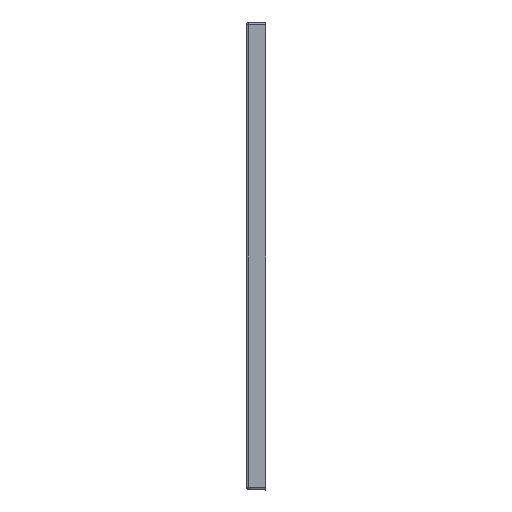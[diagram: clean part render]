
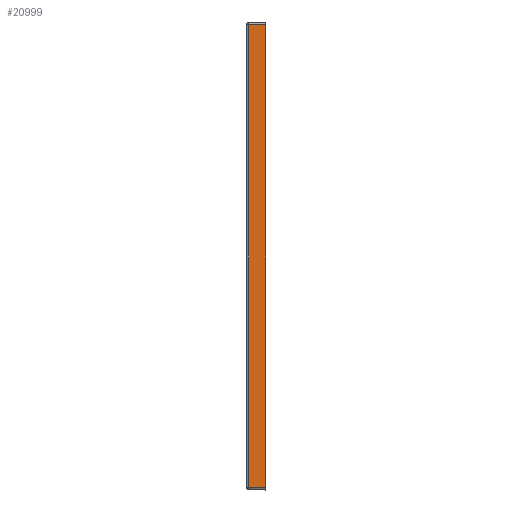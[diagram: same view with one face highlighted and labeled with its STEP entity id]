
A CAD part, left-side view. The second image highlights one B-rep face of the part: STEP entity #20999.
In plain terms, the highlighted planar face has unit normal (-1, 0.018, 0).
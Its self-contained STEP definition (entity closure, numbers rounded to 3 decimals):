
#775 = ORIENTED_EDGE ( 'NONE', *, *, #31260, .T. ) ;
#1374 = EDGE_LOOP ( 'NONE', ( #775, #21188, #17358, #2604 ) ) ;
#1909 = VERTEX_POINT ( 'NONE', #28631 ) ;
#2249 = DIRECTION ( 'NONE',  ( -0.017, -1., -0.017 ) ) ;
#2604 = ORIENTED_EDGE ( 'NONE', *, *, #30219, .T. ) ;
#2775 = CARTESIAN_POINT ( 'NONE',  ( -450.086, -4.913, 190.087 ) ) ;
#3504 = LINE ( 'NONE', #25709, #11503 ) ;
#3541 = DIRECTION ( 'NONE',  ( -0.017, -1., 0. ) ) ;
#5024 = VECTOR ( 'NONE', #11985, 1000. ) ;
#5456 = VERTEX_POINT ( 'NONE', #18406 ) ;
#5928 = DIRECTION ( 'NONE',  ( -1., 0.017, 0. ) ) ;
#6880 = LINE ( 'NONE', #19492, #30020 ) ;
#6896 = LINE ( 'NONE', #20962, #9638 ) ;
#8288 = DIRECTION ( 'NONE',  ( 0., 0., 1. ) ) ;
#9278 = CARTESIAN_POINT ( 'NONE',  ( -449.727, 15.613, 189.728 ) ) ;
#9397 = VERTEX_POINT ( 'NONE', #2775 ) ;
#9638 = VECTOR ( 'NONE', #30874, 1000. ) ;
#10139 = PLANE ( 'NONE',  #23384 ) ;
#11503 = VECTOR ( 'NONE', #8288, 1000. ) ;
#11985 = DIRECTION ( 'NONE',  ( 0.017, 1., -0.017 ) ) ;
#12384 = FACE_OUTER_BOUND ( 'NONE', #1374, .T. ) ;
#13865 = EDGE_CURVE ( 'NONE', #21546, #5456, #3504, .T. ) ;
#14523 = LINE ( 'NONE', #9278, #5024 ) ;
#16787 = EDGE_CURVE ( 'NONE', #1909, #21546, #6880, .T. ) ;
#17358 = ORIENTED_EDGE ( 'NONE', *, *, #13865, .T. ) ;
#18406 = CARTESIAN_POINT ( 'NONE',  ( -450.663, -38., 190.664 ) ) ;
#19492 = CARTESIAN_POINT ( 'NONE',  ( -450.002, -0.087, -700.002 ) ) ;
#20962 = CARTESIAN_POINT ( 'NONE',  ( -450.086, -4.913, -705. ) ) ;
#20999 = ADVANCED_FACE ( 'NONE', ( #12384 ), #10139, .T. ) ;
#21188 = ORIENTED_EDGE ( 'NONE', *, *, #16787, .T. ) ;
#21546 = VERTEX_POINT ( 'NONE', #26890 ) ;
#21979 = CARTESIAN_POINT ( 'NONE',  ( -450., 0., -705. ) ) ;
#23384 = AXIS2_PLACEMENT_3D ( 'NONE', #21979, #5928, #3541 ) ;
#25709 = CARTESIAN_POINT ( 'NONE',  ( -450.663, -38., 195. ) ) ;
#26890 = CARTESIAN_POINT ( 'NONE',  ( -450.663, -38., -700.664 ) ) ;
#28631 = CARTESIAN_POINT ( 'NONE',  ( -450.086, -4.913, -700.087 ) ) ;
#30020 = VECTOR ( 'NONE', #2249, 1000. ) ;
#30219 = EDGE_CURVE ( 'NONE', #5456, #9397, #14523, .T. ) ;
#30874 = DIRECTION ( 'NONE',  ( 0., 0., -1. ) ) ;
#31260 = EDGE_CURVE ( 'NONE', #9397, #1909, #6896, .T. ) ;
